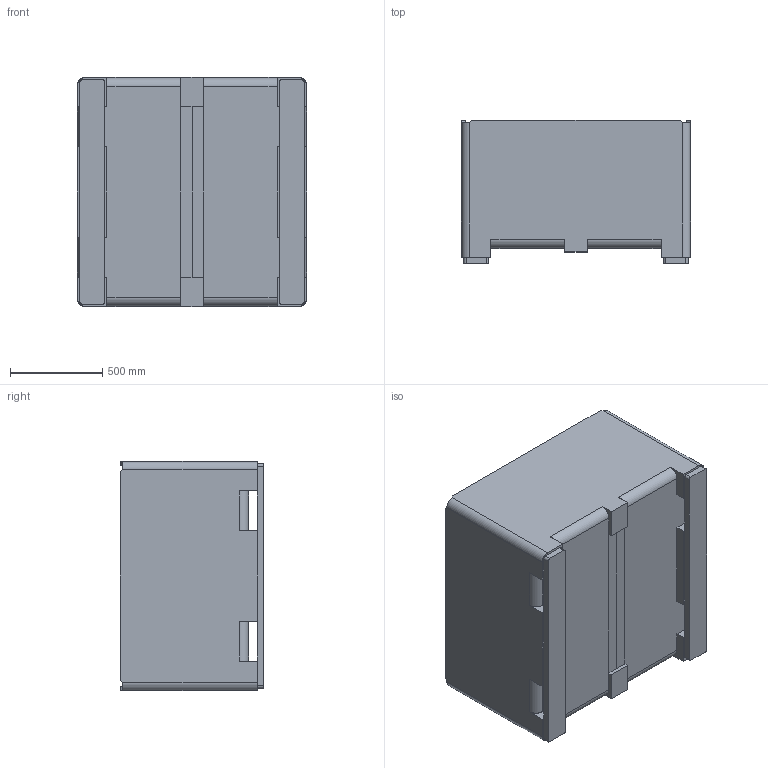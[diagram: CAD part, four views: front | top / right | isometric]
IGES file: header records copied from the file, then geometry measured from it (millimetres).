
Start section: SolidWorks IGES file using analytic representation for surfaces
Global section: file name: C:\Users\bconder\Documents\Production Models\MacroBins\28FV\28FV Block Model.IGS; native system: SolidWorks 2013; preprocessor: SolidWorks 2013; author: bconder; date: 130603.104448; units: inch
Bounding box: 1244.6 x 777.88 x 1244.6 mm (x, y, z)
Surface area: 9672595.4 mm2 (no closed solid volume)
Topology: 0 solids, 0 shells, 110 faces, 1234 edges, 1230 vertices
Faces by surface type: bspline 82, revolution 28
